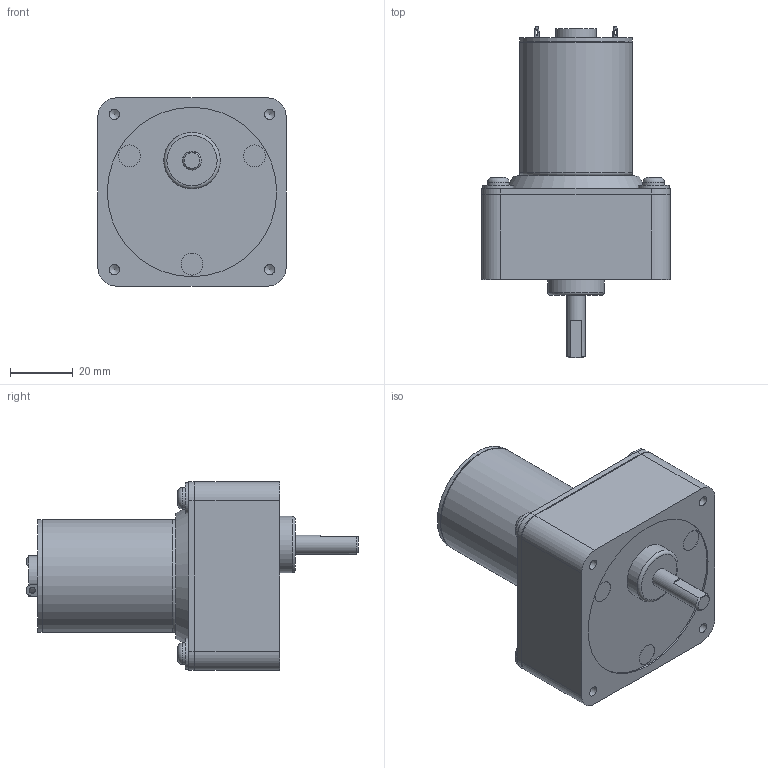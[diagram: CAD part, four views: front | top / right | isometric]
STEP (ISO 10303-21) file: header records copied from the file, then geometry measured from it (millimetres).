
FILE_DESCRIPTION((''),'2;1');
FILE_NAME('C:\Documents and Settings\SSEGAWA\デスクトップ\TP-3644H-CE.stp','2013-07-22T16:44:21',('SSEGAWA'),(''),'Autodesk Inventor 2010','Autodesk Inventor 2010','');
FILE_SCHEMA(('CONFIG_CONTROL_DESIGN'));
Length unit declared in the file: millimetre
Products named in the file (1): tp_3644dh_ce_Shrinkwrap_1
Bounding box: 60 x 105.8 x 60 mm (x, y, z)
Volume: 155386.1 mm3; surface area: 20988.3 mm2
Topology: 1 solids, 4 shells, 108 faces, 231 edges, 153 vertices
Faces by surface type: plane 50, cylinder 34, bspline 16, torus 6, cone 2
Full cylindrical faces by diameter (mm): 3 x1, 3.5 x1, 6 x1, 6.8 x4, 7 x3, 9.8 x4, 13 x1, 18 x1, 35.6 x1, 36 x2, 54 x1
Entity records: 2910 total; most frequent: CARTESIAN_POINT 688, DIRECTION 449, ORIENTED_EDGE 338, AXIS2_PLACEMENT_3D 189, EDGE_LOOP 177, EDGE_CURVE 169, VERTEX_POINT 134, STYLED_ITEM 109
